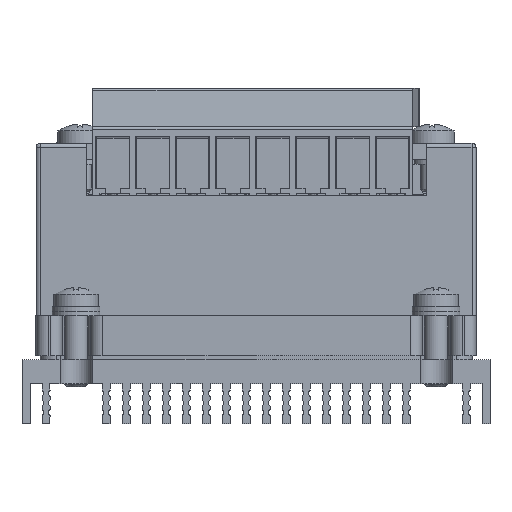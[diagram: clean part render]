
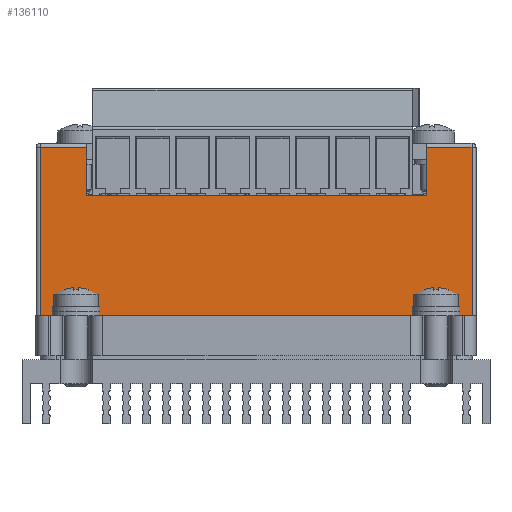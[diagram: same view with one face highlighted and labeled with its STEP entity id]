
A CAD part, front view. The second image highlights one B-rep face of the part: STEP entity #136110.
In plain terms, the highlighted planar face has unit normal (0, -1, 0).
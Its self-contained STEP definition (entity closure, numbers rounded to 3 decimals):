
#2884 = EDGE_CURVE ( 'NONE', #119969, #66333, #47198, .T. ) ;
#3996 = ORIENTED_EDGE ( 'NONE', *, *, #29162, .F. ) ;
#7105 = CARTESIAN_POINT ( 'NONE',  ( -49., -23.501, -18.031 ) ) ;
#7172 = EDGE_CURVE ( 'NONE', #66333, #19340, #146863, .T. ) ;
#8190 = AXIS2_PLACEMENT_3D ( 'NONE', #91401, #121883, #58073 ) ;
#11175 = VECTOR ( 'NONE', #75842, 1000. ) ;
#11609 = EDGE_CURVE ( 'NONE', #161383, #87800, #49282, .T. ) ;
#13430 = ORIENTED_EDGE ( 'NONE', *, *, #144180, .T. ) ;
#18225 = EDGE_CURVE ( 'NONE', #161383, #19340, #61734, .T. ) ;
#18569 = CARTESIAN_POINT ( 'NONE',  ( -0.73, -23.501, -3.04 ) ) ;
#18930 = ORIENTED_EDGE ( 'NONE', *, *, #42147, .T. ) ;
#19340 = VERTEX_POINT ( 'NONE', #81793 ) ;
#20481 = VECTOR ( 'NONE', #150727, 1000. ) ;
#21605 = CARTESIAN_POINT ( 'NONE',  ( -0.73, -23.501, 3.5 ) ) ;
#26847 = DIRECTION ( 'NONE',  ( 1., 0., 0. ) ) ;
#29162 = EDGE_CURVE ( 'NONE', #185735, #180966, #161387, .T. ) ;
#31511 = FACE_OUTER_BOUND ( 'NONE', #138968, .T. ) ;
#32581 = CARTESIAN_POINT ( 'NONE',  ( -47., -23.501, -18.031 ) ) ;
#36290 = ORIENTED_EDGE ( 'NONE', *, *, #7172, .T. ) ;
#39650 = CARTESIAN_POINT ( 'NONE',  ( -121.198, -23.501, 3. ) ) ;
#42147 = EDGE_CURVE ( 'NONE', #185735, #119969, #171864, .T. ) ;
#43742 = VECTOR ( 'NONE', #127669, 1000. ) ;
#45957 = VECTOR ( 'NONE', #26847, 1000. ) ;
#46768 = CARTESIAN_POINT ( 'NONE',  ( 5., -23.501, -18.031 ) ) ;
#47007 = DIRECTION ( 'NONE',  ( 1., 0., 0. ) ) ;
#47198 = LINE ( 'NONE', #155188, #148394 ) ;
#47654 = CARTESIAN_POINT ( 'NONE',  ( 5., -23.501, -18.031 ) ) ;
#48715 = LINE ( 'NONE', #46768, #150344 ) ;
#49282 = LINE ( 'NONE', #93495, #11175 ) ;
#51172 = LINE ( 'NONE', #32581, #192925 ) ;
#58073 = DIRECTION ( 'NONE',  ( 0., 0., -1. ) ) ;
#61734 = LINE ( 'NONE', #135428, #137761 ) ;
#66333 = VERTEX_POINT ( 'NONE', #174172 ) ;
#75842 = DIRECTION ( 'NONE',  ( 0., 0., -1. ) ) ;
#81793 = CARTESIAN_POINT ( 'NONE',  ( -43.2, -23.501, 3. ) ) ;
#82469 = ORIENTED_EDGE ( 'NONE', *, *, #18225, .F. ) ;
#85750 = CARTESIAN_POINT ( 'NONE',  ( 5., -23.501, 3. ) ) ;
#87559 = PLANE ( 'NONE',  #8190 ) ;
#87800 = VERTEX_POINT ( 'NONE', #7105 ) ;
#90792 = CARTESIAN_POINT ( 'NONE',  ( -43.2, -23.501, 3.5 ) ) ;
#91401 = CARTESIAN_POINT ( 'NONE',  ( 5.5, -23.501, -18.031 ) ) ;
#93495 = CARTESIAN_POINT ( 'NONE',  ( -49., -23.501, -18.031 ) ) ;
#97938 = VERTEX_POINT ( 'NONE', #47654 ) ;
#111090 = DIRECTION ( 'NONE',  ( -1., 0., 0. ) ) ;
#112000 = EDGE_CURVE ( 'NONE', #97938, #87800, #51172, .T. ) ;
#119304 = ORIENTED_EDGE ( 'NONE', *, *, #11609, .T. ) ;
#119969 = VERTEX_POINT ( 'NONE', #18569 ) ;
#121883 = DIRECTION ( 'NONE',  ( 0., -1., 0. ) ) ;
#125724 = DIRECTION ( 'NONE',  ( -1., 0., 0. ) ) ;
#127669 = DIRECTION ( 'NONE',  ( 0., 0., -1. ) ) ;
#135428 = CARTESIAN_POINT ( 'NONE',  ( -49.221, -23.501, 3. ) ) ;
#136110 = ADVANCED_FACE ( 'NONE', ( #31511 ), #87559, .T. ) ;
#137290 = CARTESIAN_POINT ( 'NONE',  ( -0.73, -23.501, 3. ) ) ;
#137761 = VECTOR ( 'NONE', #47007, 1000. ) ;
#138968 = EDGE_LOOP ( 'NONE', ( #36290, #82469, #119304, #184526, #13430, #3996, #18930, #163718 ) ) ;
#141727 = CARTESIAN_POINT ( 'NONE',  ( -49., -23.501, 3. ) ) ;
#144180 = EDGE_CURVE ( 'NONE', #97938, #180966, #48715, .T. ) ;
#146863 = LINE ( 'NONE', #90792, #20481 ) ;
#148394 = VECTOR ( 'NONE', #125724, 1000. ) ;
#150344 = VECTOR ( 'NONE', #168548, 1000. ) ;
#150727 = DIRECTION ( 'NONE',  ( 0., 0., 1. ) ) ;
#155188 = CARTESIAN_POINT ( 'NONE',  ( 5.5, -23.501, -3.04 ) ) ;
#161383 = VERTEX_POINT ( 'NONE', #141727 ) ;
#161387 = LINE ( 'NONE', #39650, #45957 ) ;
#163718 = ORIENTED_EDGE ( 'NONE', *, *, #2884, .T. ) ;
#168548 = DIRECTION ( 'NONE',  ( 0., 0., 1. ) ) ;
#171864 = LINE ( 'NONE', #21605, #43742 ) ;
#174172 = CARTESIAN_POINT ( 'NONE',  ( -43.2, -23.501, -3.04 ) ) ;
#180966 = VERTEX_POINT ( 'NONE', #85750 ) ;
#184526 = ORIENTED_EDGE ( 'NONE', *, *, #112000, .F. ) ;
#185735 = VERTEX_POINT ( 'NONE', #137290 ) ;
#192925 = VECTOR ( 'NONE', #111090, 1000. ) ;
